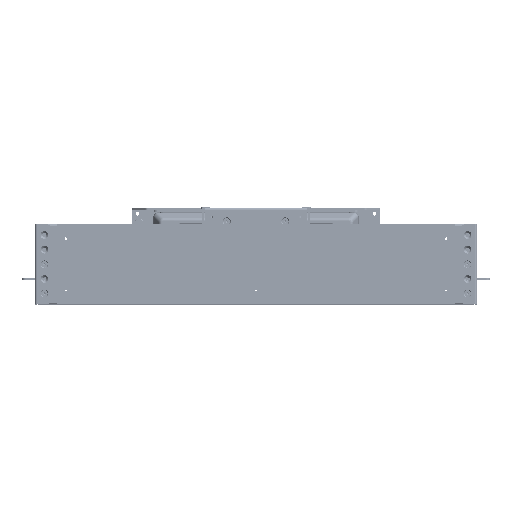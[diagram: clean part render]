
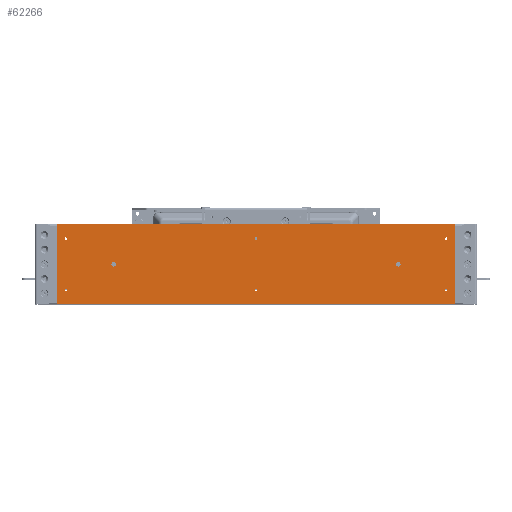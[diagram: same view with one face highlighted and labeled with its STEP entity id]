
A CAD part, top view. The second image highlights one B-rep face of the part: STEP entity #62266.
In plain terms, the highlighted planar face has unit normal (0, 0, 1) as drawn and (0, -1, 0) by its records, which use the part's own axes.
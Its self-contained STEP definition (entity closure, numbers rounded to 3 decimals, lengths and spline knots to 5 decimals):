
#4544=CIRCLE('',#71567,0.00225);
#4547=CIRCLE('',#71572,0.00225);
#4550=CIRCLE('',#71577,0.00225);
#4553=CIRCLE('',#71582,0.00225);
#4556=CIRCLE('',#71587,0.00225);
#4559=CIRCLE('',#71592,0.00225);
#4561=CIRCLE('',#71595,0.00396);
#4563=CIRCLE('',#71598,0.00396);
#4564=CIRCLE('',#71600,0.00318);
#4565=CIRCLE('',#71601,0.00318);
#4566=CIRCLE('',#71602,0.00318);
#4567=CIRCLE('',#71603,0.00318);
#10741=LINE('',#110167,#16304);
#10742=LINE('',#110172,#16305);
#10743=LINE('',#110176,#16306);
#10744=LINE('',#110180,#16307);
#16304=VECTOR('',#88784,1.);
#16305=VECTOR('',#88787,1.);
#16306=VECTOR('',#88790,1.);
#16307=VECTOR('',#88793,1.);
#32983=ORIENTED_EDGE('',*,*,#41716,.F.);
#32984=ORIENTED_EDGE('',*,*,#41717,.T.);
#32985=ORIENTED_EDGE('',*,*,#41718,.F.);
#32986=ORIENTED_EDGE('',*,*,#41719,.T.);
#32987=ORIENTED_EDGE('',*,*,#41720,.T.);
#32988=ORIENTED_EDGE('',*,*,#41721,.T.);
#32989=ORIENTED_EDGE('',*,*,#41722,.T.);
#32990=ORIENTED_EDGE('',*,*,#41723,.T.);
#32991=ORIENTED_EDGE('',*,*,#41715,.F.);
#32992=ORIENTED_EDGE('',*,*,#41713,.F.);
#32993=ORIENTED_EDGE('',*,*,#41711,.F.);
#32994=ORIENTED_EDGE('',*,*,#41708,.F.);
#32995=ORIENTED_EDGE('',*,*,#41705,.F.);
#32996=ORIENTED_EDGE('',*,*,#41702,.F.);
#32997=ORIENTED_EDGE('',*,*,#41699,.F.);
#32998=ORIENTED_EDGE('',*,*,#41696,.F.);
#41696=EDGE_CURVE('',#47445,#47445,#4544,.T.);
#41699=EDGE_CURVE('',#47448,#47448,#4547,.T.);
#41702=EDGE_CURVE('',#47451,#47451,#4550,.T.);
#41705=EDGE_CURVE('',#47454,#47454,#4553,.T.);
#41708=EDGE_CURVE('',#47457,#47457,#4556,.T.);
#41711=EDGE_CURVE('',#47460,#47460,#4559,.T.);
#41713=EDGE_CURVE('',#47462,#47462,#4561,.T.);
#41715=EDGE_CURVE('',#47464,#47464,#4563,.T.);
#41716=EDGE_CURVE('',#47465,#47466,#10741,.T.);
#41717=EDGE_CURVE('',#47465,#47467,#4564,.T.);
#41718=EDGE_CURVE('',#47468,#47467,#10742,.T.);
#41719=EDGE_CURVE('',#47468,#47469,#4565,.T.);
#41720=EDGE_CURVE('',#47469,#47470,#10743,.T.);
#41721=EDGE_CURVE('',#47470,#47471,#4566,.T.);
#41722=EDGE_CURVE('',#47471,#47472,#10744,.T.);
#41723=EDGE_CURVE('',#47472,#47466,#4567,.T.);
#47445=VERTEX_POINT('',#110115);
#47448=VERTEX_POINT('',#110123);
#47451=VERTEX_POINT('',#110131);
#47454=VERTEX_POINT('',#110139);
#47457=VERTEX_POINT('',#110147);
#47460=VERTEX_POINT('',#110155);
#47462=VERTEX_POINT('',#110160);
#47464=VERTEX_POINT('',#110165);
#47465=VERTEX_POINT('',#110168);
#47466=VERTEX_POINT('',#110169);
#47467=VERTEX_POINT('',#110171);
#47468=VERTEX_POINT('',#110173);
#47469=VERTEX_POINT('',#110175);
#47470=VERTEX_POINT('',#110177);
#47471=VERTEX_POINT('',#110179);
#47472=VERTEX_POINT('',#110181);
#52388=EDGE_LOOP('',(#32983,#32984,#32985,#32986,#32987,#32988,#32989,#32990));
#52389=EDGE_LOOP('',(#32991));
#52390=EDGE_LOOP('',(#32992));
#52391=EDGE_LOOP('',(#32993));
#52392=EDGE_LOOP('',(#32994));
#52393=EDGE_LOOP('',(#32995));
#52394=EDGE_LOOP('',(#32996));
#52395=EDGE_LOOP('',(#32997));
#52396=EDGE_LOOP('',(#32998));
#56858=FACE_BOUND('',#52388,.T.);
#56859=FACE_BOUND('',#52389,.T.);
#56860=FACE_BOUND('',#52390,.T.);
#56861=FACE_BOUND('',#52391,.T.);
#56862=FACE_BOUND('',#52392,.T.);
#56863=FACE_BOUND('',#52393,.T.);
#56864=FACE_BOUND('',#52394,.T.);
#56865=FACE_BOUND('',#52395,.T.);
#56866=FACE_BOUND('',#52396,.T.);
#58939=PLANE('',#71599);
#62266=ADVANCED_FACE('',(#56858,#56859,#56860,#56861,#56862,#56863,#56864,
#56865,#56866),#58939,.T.);
#71567=AXIS2_PLACEMENT_3D('',#110114,#88718,#88719);
#71572=AXIS2_PLACEMENT_3D('',#110122,#88728,#88729);
#71577=AXIS2_PLACEMENT_3D('',#110130,#88738,#88739);
#71582=AXIS2_PLACEMENT_3D('',#110138,#88748,#88749);
#71587=AXIS2_PLACEMENT_3D('',#110146,#88758,#88759);
#71592=AXIS2_PLACEMENT_3D('',#110154,#88768,#88769);
#71595=AXIS2_PLACEMENT_3D('',#110159,#88774,#88775);
#71598=AXIS2_PLACEMENT_3D('',#110164,#88780,#88781);
#71599=AXIS2_PLACEMENT_3D('',#110166,#88782,#88783);
#71600=AXIS2_PLACEMENT_3D('',#110170,#88785,#88786);
#71601=AXIS2_PLACEMENT_3D('',#110174,#88788,#88789);
#71602=AXIS2_PLACEMENT_3D('',#110178,#88791,#88792);
#71603=AXIS2_PLACEMENT_3D('',#110182,#88794,#88795);
#88718=DIRECTION('',(0.,-1.,0.));
#88719=DIRECTION('',(1.,0.,0.));
#88728=DIRECTION('',(0.,-1.,0.));
#88729=DIRECTION('',(1.,0.,0.));
#88738=DIRECTION('',(0.,-1.,0.));
#88739=DIRECTION('',(1.,0.,0.));
#88748=DIRECTION('',(0.,-1.,0.));
#88749=DIRECTION('',(1.,0.,0.));
#88758=DIRECTION('',(0.,-1.,0.));
#88759=DIRECTION('',(1.,0.,0.));
#88768=DIRECTION('',(0.,-1.,0.));
#88769=DIRECTION('',(1.,0.,0.));
#88774=DIRECTION('',(0.,-1.,0.));
#88775=DIRECTION('',(1.,0.,0.));
#88780=DIRECTION('',(0.,-1.,0.));
#88781=DIRECTION('',(1.,0.,0.));
#88782=DIRECTION('',(0.,-1.,0.));
#88783=DIRECTION('',(1.,0.,0.));
#88784=DIRECTION('',(0.,0.,1.));
#88785=DIRECTION('',(0.,-1.,0.));
#88786=DIRECTION('',(1.,0.,0.));
#88787=DIRECTION('',(-1.,0.,0.));
#88788=DIRECTION('',(0.,-1.,0.));
#88789=DIRECTION('',(1.,0.,0.));
#88790=DIRECTION('',(0.,0.,1.));
#88791=DIRECTION('',(0.,-1.,0.));
#88792=DIRECTION('',(1.,0.,0.));
#88793=DIRECTION('',(-1.,0.,0.));
#88794=DIRECTION('',(0.,-1.,0.));
#88795=DIRECTION('',(1.,0.,0.));
#110114=CARTESIAN_POINT('',(0.62548,-0.76109,-0.05766));
#110115=CARTESIAN_POINT('',(0.62772,-0.76109,-0.05766));
#110122=CARTESIAN_POINT('',(0.29528,-0.76109,-0.05766));
#110123=CARTESIAN_POINT('',(0.29752,-0.76109,-0.05766));
#110130=CARTESIAN_POINT('',(0.29528,-0.76109,-0.14656));
#110131=CARTESIAN_POINT('',(0.29752,-0.76109,-0.14656));
#110138=CARTESIAN_POINT('',(-0.03493,-0.76109,-0.05766));
#110139=CARTESIAN_POINT('',(-0.03268,-0.76109,-0.05766));
#110146=CARTESIAN_POINT('',(0.62548,-0.76109,-0.14656));
#110147=CARTESIAN_POINT('',(0.62772,-0.76109,-0.14656));
#110154=CARTESIAN_POINT('',(-0.03493,-0.76109,-0.14656));
#110155=CARTESIAN_POINT('',(-0.03268,-0.76109,-0.14656));
#110159=CARTESIAN_POINT('',(0.54242,-0.76109,-0.10211));
#110160=CARTESIAN_POINT('',(0.54638,-0.76109,-0.10211));
#110164=CARTESIAN_POINT('',(0.04813,-0.76109,-0.10211));
#110165=CARTESIAN_POINT('',(0.0521,-0.76109,-0.10211));
#110166=CARTESIAN_POINT('',(0.29528,-0.76109,-0.10211));
#110167=CARTESIAN_POINT('',(-0.0508,-0.76109,-0.10211));
#110168=CARTESIAN_POINT('',(-0.0508,-0.76109,-0.16878));
#110169=CARTESIAN_POINT('',(-0.0508,-0.76109,-0.03543));
#110170=CARTESIAN_POINT('',(-0.04763,-0.76109,-0.16878));
#110171=CARTESIAN_POINT('',(-0.04763,-0.76109,-0.17196));
#110172=CARTESIAN_POINT('',(0.29528,-0.76109,-0.17196));
#110173=CARTESIAN_POINT('',(0.63818,-0.76109,-0.17196));
#110174=CARTESIAN_POINT('',(0.63818,-0.76109,-0.16878));
#110175=CARTESIAN_POINT('',(0.64135,-0.76109,-0.16878));
#110176=CARTESIAN_POINT('',(0.64135,-0.76109,-0.10211));
#110177=CARTESIAN_POINT('',(0.64135,-0.76109,-0.03543));
#110178=CARTESIAN_POINT('',(0.63818,-0.76109,-0.03543));
#110179=CARTESIAN_POINT('',(0.63818,-0.76109,-0.03226));
#110180=CARTESIAN_POINT('',(0.29528,-0.76109,-0.03226));
#110181=CARTESIAN_POINT('',(-0.04763,-0.76109,-0.03226));
#110182=CARTESIAN_POINT('',(-0.04763,-0.76109,-0.03543));
